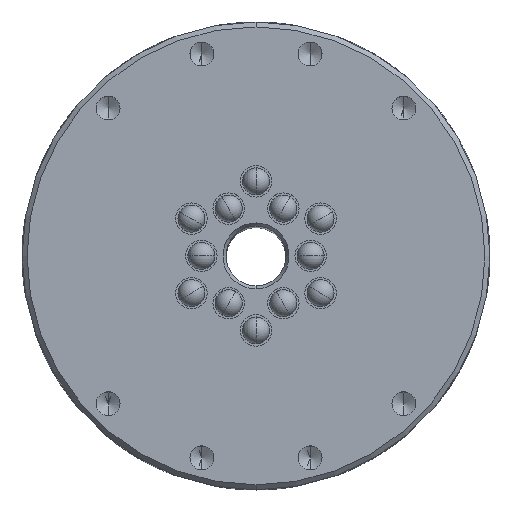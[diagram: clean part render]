
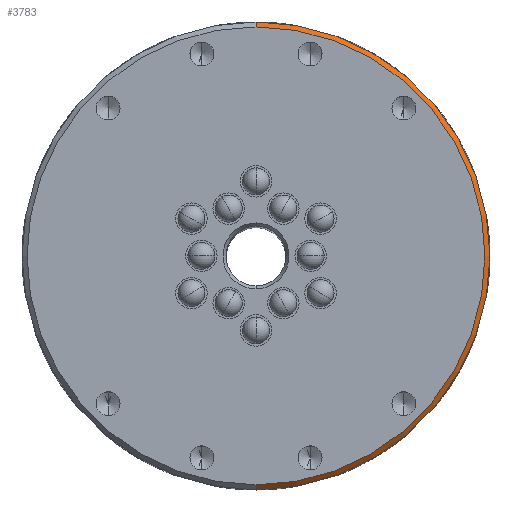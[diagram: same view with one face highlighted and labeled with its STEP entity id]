
A CAD part, top view. The second image highlights one B-rep face of the part: STEP entity #3783.
In plain terms, the highlighted conical face has half-angle 45 degrees and reference radius 37.3 mm.
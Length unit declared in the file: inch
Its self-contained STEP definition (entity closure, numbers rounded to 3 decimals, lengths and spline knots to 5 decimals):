
#1636 = ORIENTED_EDGE ( 'NONE', *, *, #3380, .F. ) ;
#1637 = ORIENTED_EDGE ( 'NONE', *, *, #3379, .F. ) ;
#1638 = ORIENTED_EDGE ( 'NONE', *, *, #3378, .T. ) ;
#1639 = ORIENTED_EDGE ( 'NONE', *, *, #3377, .F. ) ;
#3377 = EDGE_CURVE ( 'NONE', #8111, #8121, #5748, .T. ) ;
#3378 = EDGE_CURVE ( 'NONE', #8111, #8124, #19302, .T. ) ;
#3379 = EDGE_CURVE ( 'NONE', #8125, #8124, #5750, .T. ) ;
#3380 = EDGE_CURVE ( 'NONE', #8121, #8125, #19306, .T. ) ;
#3783 = ADVANCED_FACE ( 'NONE', ( #18307 ), #6432, .T. ) ;
#4905 = AXIS2_PLACEMENT_3D ( 'NONE', #19303, #19304, #19305 ) ;
#5157 = VECTOR ( 'NONE', #19312, 39.37008 ) ;
#5748 = CIRCLE ( 'NONE', #4905, 1.4375 ) ;
#5749 = VECTOR ( 'NONE', #19307, 39.37008 ) ;
#5750 = CIRCLE ( 'NONE', #5752, 1.4685 ) ;
#5752 = AXIS2_PLACEMENT_3D ( 'NONE', #19308, #19309, #19310 ) ;
#6432 = CONICAL_SURFACE ( 'NONE', #6433, 1.4685, 0.785 ) ;
#6433 = AXIS2_PLACEMENT_3D ( 'NONE', #18306, #18308, #18305 ) ;
#7536 = EDGE_LOOP ( 'NONE', ( #1639, #1638, #1637, #1636 ) ) ;
#8111 = VERTEX_POINT ( 'NONE', #15654 ) ;
#8121 = VERTEX_POINT ( 'NONE', #15662 ) ;
#8124 = VERTEX_POINT ( 'NONE', #15658 ) ;
#8125 = VERTEX_POINT ( 'NONE', #15665 ) ;
#15654 = CARTESIAN_POINT ( 'NONE',  ( 0., 6.806, 1.4375 ) ) ;
#15658 = CARTESIAN_POINT ( 'NONE',  ( 0., 6.775, 1.4685 ) ) ;
#15662 = CARTESIAN_POINT ( 'NONE',  ( 0., 6.806, -1.4375 ) ) ;
#15665 = CARTESIAN_POINT ( 'NONE',  ( 0., 6.775, -1.4685 ) ) ;
#18305 = DIRECTION ( 'NONE',  ( 0., 0., -1. ) ) ;
#18306 = CARTESIAN_POINT ( 'NONE',  ( 0., 6.775, 0. ) ) ;
#18307 = FACE_OUTER_BOUND ( 'NONE', #7536, .T. ) ;
#18308 = DIRECTION ( 'NONE',  ( 0., -1., 0. ) ) ;
#19299 = CARTESIAN_POINT ( 'NONE',  ( 0., 6.775, 1.4685 ) ) ;
#19301 = CARTESIAN_POINT ( 'NONE',  ( 0., 6.775, -1.4685 ) ) ;
#19302 = LINE ( 'NONE', #19299, #5749 ) ;
#19303 = CARTESIAN_POINT ( 'NONE',  ( 0., 6.806, 0. ) ) ;
#19304 = DIRECTION ( 'NONE',  ( 0., 1., 0. ) ) ;
#19305 = DIRECTION ( 'NONE',  ( 0., 0., 1. ) ) ;
#19306 = LINE ( 'NONE', #19301, #5157 ) ;
#19307 = DIRECTION ( 'NONE',  ( 0., -0.707, 0.707 ) ) ;
#19308 = CARTESIAN_POINT ( 'NONE',  ( 0., 6.775, 0. ) ) ;
#19309 = DIRECTION ( 'NONE',  ( 0., -1., 0. ) ) ;
#19310 = DIRECTION ( 'NONE',  ( 0., 0., 1. ) ) ;
#19312 = DIRECTION ( 'NONE',  ( 0., -0.707, -0.707 ) ) ;
